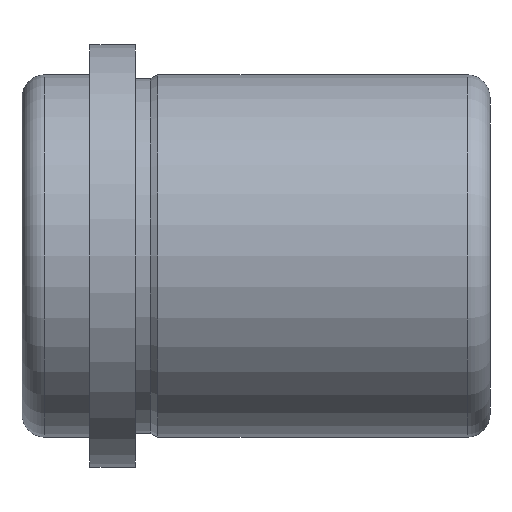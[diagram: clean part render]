
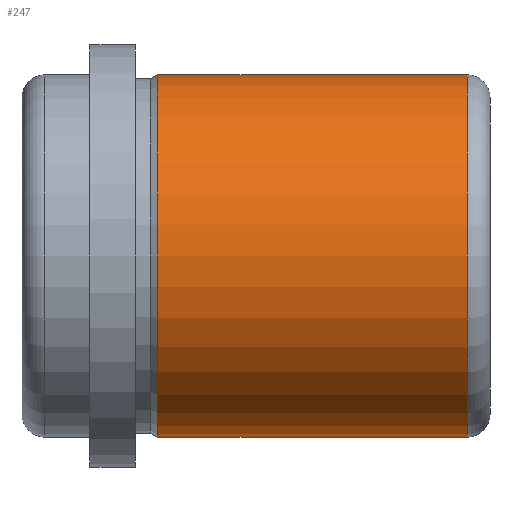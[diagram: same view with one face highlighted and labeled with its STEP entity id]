
A CAD part, front view. The second image highlights one B-rep face of the part: STEP entity #247.
In plain terms, the highlighted cylindrical face has radius 24 mm (diameter 48 mm), a full revolution.
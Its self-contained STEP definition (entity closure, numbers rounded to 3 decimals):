
#29=LINE('',#420,#39);
#39=VECTOR('',#335,24.);
#49=CYLINDRICAL_SURFACE('',#288,24.);
#55=FACE_OUTER_BOUND('',#72,.T.);
#72=EDGE_LOOP('',(#169,#170,#171,#172,#173));
#95=CIRCLE('',#286,24.);
#96=CIRCLE('',#287,24.);
#97=CIRCLE('',#289,24.);
#115=VERTEX_POINT('',#413);
#116=VERTEX_POINT('',#415);
#117=VERTEX_POINT('',#419);
#135=EDGE_CURVE('',#115,#116,#95,.T.);
#136=EDGE_CURVE('',#116,#115,#96,.T.);
#137=EDGE_CURVE('',#116,#117,#29,.T.);
#138=EDGE_CURVE('',#117,#117,#97,.T.);
#169=ORIENTED_EDGE('',*,*,#136,.F.);
#170=ORIENTED_EDGE('',*,*,#137,.T.);
#171=ORIENTED_EDGE('',*,*,#138,.T.);
#172=ORIENTED_EDGE('',*,*,#137,.F.);
#173=ORIENTED_EDGE('',*,*,#135,.F.);
#247=ADVANCED_FACE('',(#55),#49,.T.);
#286=AXIS2_PLACEMENT_3D('',#416,#329,#330);
#287=AXIS2_PLACEMENT_3D('',#417,#331,#332);
#288=AXIS2_PLACEMENT_3D('',#418,#333,#334);
#289=AXIS2_PLACEMENT_3D('',#421,#336,#337);
#329=DIRECTION('center_axis',(1.,0.,0.));
#330=DIRECTION('ref_axis',(0.,-1.,0.));
#331=DIRECTION('center_axis',(1.,0.,0.));
#332=DIRECTION('ref_axis',(0.,-1.,0.));
#333=DIRECTION('center_axis',(1.,0.,0.));
#334=DIRECTION('ref_axis',(0.,1.,0.));
#335=DIRECTION('',(-1.,0.,0.));
#336=DIRECTION('center_axis',(1.,0.,0.));
#337=DIRECTION('ref_axis',(0.,0.,-1.));
#413=CARTESIAN_POINT('',(59.,0.,24.));
#415=CARTESIAN_POINT('',(59.,-24.,0.));
#416=CARTESIAN_POINT('Origin',(59.,0.,0.));
#417=CARTESIAN_POINT('Origin',(59.,0.,0.));
#418=CARTESIAN_POINT('Origin',(40.,0.,0.));
#419=CARTESIAN_POINT('',(18.,-24.,0.));
#420=CARTESIAN_POINT('',(40.,-24.,0.));
#421=CARTESIAN_POINT('Origin',(18.,0.,0.));
